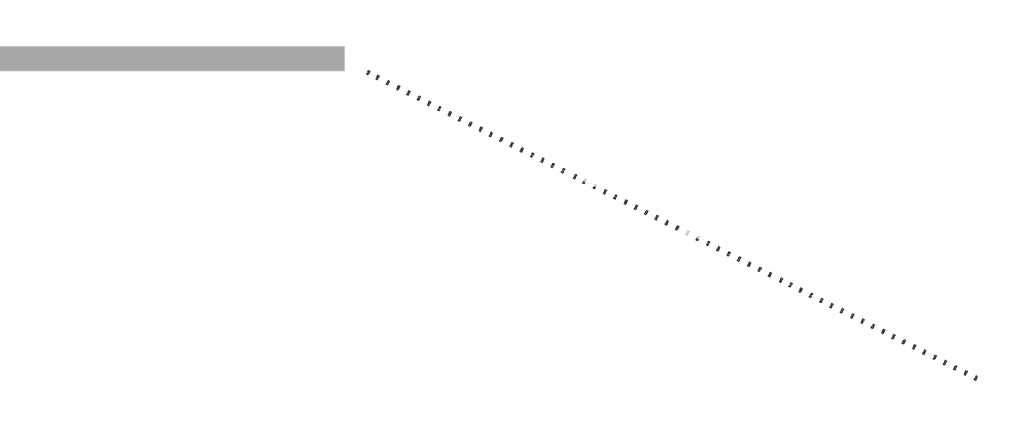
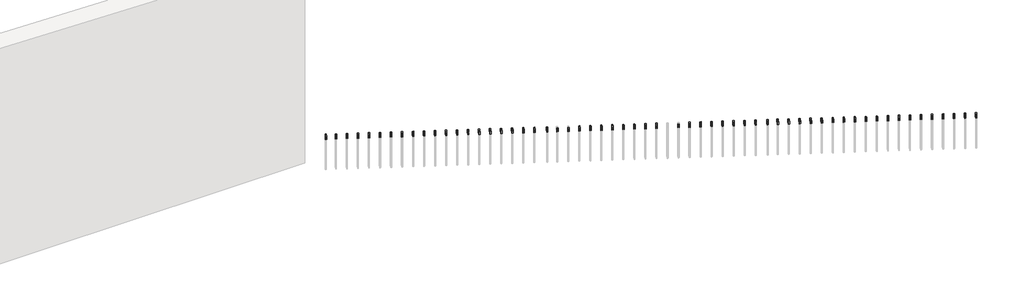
# One storey, part 4 of 7: 133 proxies.
"""IFC4 building model written with IfcOpenShell, lengths in millimetres."""

from ifc_helpers import new_model, si_unit, origin, place, context, project, spatial, transform, mapped, element, save
from components import generic_models_e9040c9c

model = new_model("IFC4")

# Units and contexts
model_context = context("Model", 3, world=origin())
ifc_project = project(units=[si_unit("LENGTHUNIT", "METRE", prefix="MILLI")], contexts=[model_context])

# Site, building, storey
site = spatial("IfcSite", under=ifc_project)
building = spatial("IfcBuilding", under=site)
storey = spatial("IfcBuildingStorey", under=building, Name="Niveau bas piédroits", Elevation=1000.0)

# Proxies
placement = place(None, origin())
generic_models_shape = generic_models_e9040c9c(model_context)
element("IfcBuildingElementProxy", 1, Name="Bouchon de sécurité vertical : Bouchon de sécurité vertical", ObjectType="Bouchon de sécurité vertical : Bouchon de sécurité vertical", at=placement, inside=storey, context=model_context, shape_type="MappedRepresentation", body=[
    mapped(generic_models_shape, transform((9537.0314234, -4304.6217934, 1708.9775513), x_axis=(1.0, 0.0, 0.0), y_axis=(0.0, 1.0, 0.0), z_axis=(0.0, 0.0, 1.0))),
])
element("IfcBuildingElementProxy", 2, Name="Bouchon de sécurité vertical : Bouchon de sécurité vertical", ObjectType="Bouchon de sécurité vertical : Bouchon de sécurité vertical", at=placement, inside=storey, context=model_context, shape_type="MappedRepresentation", body=[
    mapped(generic_models_shape, transform((9297.0314234, -4304.6217934, 1708.9775513), x_axis=(1.0, 0.0, 0.0), y_axis=(0.0, 1.0, 0.0), z_axis=(0.0, 0.0, 1.0))),
])
element("IfcBuildingElementProxy", 3, Name="Bouchon de sécurité vertical : Bouchon de sécurité vertical", ObjectType="Bouchon de sécurité vertical : Bouchon de sécurité vertical", at=placement, inside=storey, context=model_context, shape_type="MappedRepresentation", body=[
    mapped(generic_models_shape, transform((9057.0314234, -4304.6217934, 1708.9775513), x_axis=(1.0, 0.0, 0.0), y_axis=(0.0, 1.0, 0.0), z_axis=(0.0, 0.0, 1.0))),
])
element("IfcBuildingElementProxy", 4, Name="Bouchon de sécurité vertical : Bouchon de sécurité vertical", ObjectType="Bouchon de sécurité vertical : Bouchon de sécurité vertical", at=placement, inside=storey, context=model_context, shape_type="MappedRepresentation", body=[
    mapped(generic_models_shape, transform((9777.0314234, -4304.6217934, 1708.9775513), x_axis=(1.0, 0.0, 0.0), y_axis=(0.0, 1.0, 0.0), z_axis=(0.0, 0.0, 1.0))),
])
element("IfcBuildingElementProxy", 5, Name="Bouchon de sécurité vertical : Bouchon de sécurité vertical", ObjectType="Bouchon de sécurité vertical : Bouchon de sécurité vertical", at=placement, inside=storey, context=model_context, shape_type="MappedRepresentation", body=[
    mapped(generic_models_shape, transform((10017.0314234, -4304.6217934, 1708.9775513), x_axis=(1.0, 0.0, 0.0), y_axis=(0.0, 1.0, 0.0), z_axis=(0.0, 0.0, 1.0))),
])
element("IfcBuildingElementProxy", 6, Name="Bouchon de sécurité vertical : Bouchon de sécurité vertical", ObjectType="Bouchon de sécurité vertical : Bouchon de sécurité vertical", at=placement, inside=storey, context=model_context, shape_type="MappedRepresentation", body=[
    mapped(generic_models_shape, transform((10257.0314234, -4304.6217934, 1708.9775513), x_axis=(1.0, 0.0, 0.0), y_axis=(0.0, 1.0, 0.0), z_axis=(0.0, 0.0, 1.0))),
])
element("IfcBuildingElementProxy", 7, Name="Bouchon de sécurité vertical : Bouchon de sécurité vertical", ObjectType="Bouchon de sécurité vertical : Bouchon de sécurité vertical", at=placement, inside=storey, context=model_context, shape_type="MappedRepresentation", body=[
    mapped(generic_models_shape, transform((10497.0314234, -4304.6217934, 1708.9775513), x_axis=(1.0, 0.0, 0.0), y_axis=(0.0, 1.0, 0.0), z_axis=(0.0, 0.0, 1.0))),
])
element("IfcBuildingElementProxy", 8, Name="Bouchon de sécurité vertical : Bouchon de sécurité vertical", ObjectType="Bouchon de sécurité vertical : Bouchon de sécurité vertical", at=placement, inside=storey, context=model_context, shape_type="MappedRepresentation", body=[
    mapped(generic_models_shape, transform((10737.0314234, -4304.6217934, 1708.9775513), x_axis=(1.0, 0.0, 0.0), y_axis=(0.0, 1.0, 0.0), z_axis=(0.0, 0.0, 1.0))),
])
element("IfcBuildingElementProxy", 9, Name="Bouchon de sécurité vertical : Bouchon de sécurité vertical", ObjectType="Bouchon de sécurité vertical : Bouchon de sécurité vertical", at=placement, inside=storey, context=model_context, shape_type="MappedRepresentation", body=[
    mapped(generic_models_shape, transform((9537.0314234, -4024.6217934, 1708.9775513), x_axis=(1.0, 0.0, 0.0), y_axis=(0.0, 1.0, 0.0), z_axis=(0.0, 0.0, 1.0))),
])
element("IfcBuildingElementProxy", 10, Name="Bouchon de sécurité vertical : Bouchon de sécurité vertical", ObjectType="Bouchon de sécurité vertical : Bouchon de sécurité vertical", at=placement, inside=storey, context=model_context, shape_type="MappedRepresentation", body=[
    mapped(generic_models_shape, transform((9297.0314234, -4024.6217934, 1708.9775513), x_axis=(1.0, 0.0, 0.0), y_axis=(0.0, 1.0, 0.0), z_axis=(0.0, 0.0, 1.0))),
])
element("IfcBuildingElementProxy", 11, Name="Bouchon de sécurité vertical : Bouchon de sécurité vertical", ObjectType="Bouchon de sécurité vertical : Bouchon de sécurité vertical", at=placement, inside=storey, context=model_context, shape_type="MappedRepresentation", body=[
    mapped(generic_models_shape, transform((9057.0314234, -4024.6217934, 1708.9775513), x_axis=(1.0, 0.0, 0.0), y_axis=(0.0, 1.0, 0.0), z_axis=(0.0, 0.0, 1.0))),
])
element("IfcBuildingElementProxy", 12, Name="Bouchon de sécurité vertical : Bouchon de sécurité vertical", ObjectType="Bouchon de sécurité vertical : Bouchon de sécurité vertical", at=placement, inside=storey, context=model_context, shape_type="MappedRepresentation", body=[
    mapped(generic_models_shape, transform((8337.0314234, -4024.6217934, 1708.9775513), x_axis=(1.0, 0.0, 0.0), y_axis=(0.0, 1.0, 0.0), z_axis=(0.0, 0.0, 1.0))),
])
element("IfcBuildingElementProxy", 13, Name="Bouchon de sécurité vertical : Bouchon de sécurité vertical", ObjectType="Bouchon de sécurité vertical : Bouchon de sécurité vertical", at=placement, inside=storey, context=model_context, shape_type="MappedRepresentation", body=[
    mapped(generic_models_shape, transform((9777.0314234, -4024.6217934, 1708.9775513), x_axis=(1.0, 0.0, 0.0), y_axis=(0.0, 1.0, 0.0), z_axis=(0.0, 0.0, 1.0))),
])
element("IfcBuildingElementProxy", 14, Name="Bouchon de sécurité vertical : Bouchon de sécurité vertical", ObjectType="Bouchon de sécurité vertical : Bouchon de sécurité vertical", at=placement, inside=storey, context=model_context, shape_type="MappedRepresentation", body=[
    mapped(generic_models_shape, transform((10017.0314234, -4024.6217934, 1708.9775513), x_axis=(1.0, 0.0, 0.0), y_axis=(0.0, 1.0, 0.0), z_axis=(0.0, 0.0, 1.0))),
])
element("IfcBuildingElementProxy", 15, Name="Bouchon de sécurité vertical : Bouchon de sécurité vertical", ObjectType="Bouchon de sécurité vertical : Bouchon de sécurité vertical", at=placement, inside=storey, context=model_context, shape_type="MappedRepresentation", body=[
    mapped(generic_models_shape, transform((8096.4932038, -4024.6217934, 1708.9775513), x_axis=(1.0, 0.0, 0.0), y_axis=(0.0, 1.0, 0.0), z_axis=(0.0, 0.0, 1.0))),
])
element("IfcBuildingElementProxy", 16, Name="Bouchon de sécurité vertical : Bouchon de sécurité vertical", ObjectType="Bouchon de sécurité vertical : Bouchon de sécurité vertical", at=placement, inside=storey, context=model_context, shape_type="MappedRepresentation", body=[
    mapped(generic_models_shape, transform((10257.0314234, -4024.6217934, 1708.9775513), x_axis=(1.0, 0.0, 0.0), y_axis=(0.0, 1.0, 0.0), z_axis=(0.0, 0.0, 1.0))),
])
element("IfcBuildingElementProxy", 17, Name="Bouchon de sécurité vertical : Bouchon de sécurité vertical", ObjectType="Bouchon de sécurité vertical : Bouchon de sécurité vertical", at=placement, inside=storey, context=model_context, shape_type="MappedRepresentation", body=[
    mapped(generic_models_shape, transform((10497.0314234, -4024.6217934, 1708.9775513), x_axis=(1.0, 0.0, 0.0), y_axis=(0.0, 1.0, 0.0), z_axis=(0.0, 0.0, 1.0))),
])
element("IfcBuildingElementProxy", 18, Name="Bouchon de sécurité vertical : Bouchon de sécurité vertical", ObjectType="Bouchon de sécurité vertical : Bouchon de sécurité vertical", at=placement, inside=storey, context=model_context, shape_type="MappedRepresentation", body=[
    mapped(generic_models_shape, transform((10737.0314234, -4024.6217934, 1708.9775513), x_axis=(1.0, 0.0, 0.0), y_axis=(0.0, 1.0, 0.0), z_axis=(0.0, 0.0, 1.0))),
])
element("IfcBuildingElementProxy", 19, Name="Bouchon de sécurité vertical : Bouchon de sécurité vertical", ObjectType="Bouchon de sécurité vertical : Bouchon de sécurité vertical", at=placement, inside=storey, context=model_context, shape_type="MappedRepresentation", body=[
    mapped(generic_models_shape, transform((14092.3807942, -5859.4303775, 1504.6594135), x_axis=(0.8933406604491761, -0.449380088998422, 0.0), y_axis=(0.449380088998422, 0.8933406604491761, 0.0), z_axis=(0.0, 0.0, 1.0))),
])
element("IfcBuildingElementProxy", 20, Name="Bouchon de sécurité vertical : Bouchon de sécurité vertical", ObjectType="Bouchon de sécurité vertical : Bouchon de sécurité vertical", at=placement, inside=storey, context=model_context, shape_type="MappedRepresentation", body=[
    mapped(generic_models_shape, transform((13877.9790357, -5751.5791562, 1504.6594135), x_axis=(0.8933406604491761, -0.449380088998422, 0.0), y_axis=(0.449380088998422, 0.8933406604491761, 0.0), z_axis=(0.0, 0.0, 1.0))),
])
element("IfcBuildingElementProxy", 21, Name="Bouchon de sécurité vertical : Bouchon de sécurité vertical", ObjectType="Bouchon de sécurité vertical : Bouchon de sécurité vertical", at=placement, inside=storey, context=model_context, shape_type="MappedRepresentation", body=[
    mapped(generic_models_shape, transform((13663.5772772, -5643.7279348, 1504.6594135), x_axis=(0.8933406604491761, -0.449380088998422, 0.0), y_axis=(0.449380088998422, 0.8933406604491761, 0.0), z_axis=(0.0, 0.0, 1.0))),
])
element("IfcBuildingElementProxy", 22, Name="Bouchon de sécurité vertical : Bouchon de sécurité vertical", ObjectType="Bouchon de sécurité vertical : Bouchon de sécurité vertical", at=placement, inside=storey, context=model_context, shape_type="MappedRepresentation", body=[
    mapped(generic_models_shape, transform((13449.1755187, -5535.8767135, 1504.6594135), x_axis=(0.8933406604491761, -0.449380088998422, 0.0), y_axis=(0.449380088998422, 0.8933406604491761, 0.0), z_axis=(0.0, 0.0, 1.0))),
])
element("IfcBuildingElementProxy", 23, Name="Bouchon de sécurité vertical : Bouchon de sécurité vertical", ObjectType="Bouchon de sécurité vertical : Bouchon de sécurité vertical", at=placement, inside=storey, context=model_context, shape_type="MappedRepresentation", body=[
    mapped(generic_models_shape, transform((13234.7737602, -5428.0254921, 1504.6594135), x_axis=(0.8933406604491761, -0.449380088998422, 0.0), y_axis=(0.449380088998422, 0.8933406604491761, 0.0), z_axis=(0.0, 0.0, 1.0))),
])
element("IfcBuildingElementProxy", 24, Name="Bouchon de sécurité vertical : Bouchon de sécurité vertical", ObjectType="Bouchon de sécurité vertical : Bouchon de sécurité vertical", at=placement, inside=storey, context=model_context, shape_type="MappedRepresentation", body=[
    mapped(generic_models_shape, transform((13020.3720017, -5320.1742707, 1504.6594135), x_axis=(0.8933406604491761, -0.449380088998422, 0.0), y_axis=(0.449380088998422, 0.8933406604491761, 0.0), z_axis=(0.0, 0.0, 1.0))),
])
element("IfcBuildingElementProxy", 25, Name="Bouchon de sécurité vertical : Bouchon de sécurité vertical", ObjectType="Bouchon de sécurité vertical : Bouchon de sécurité vertical", at=placement, inside=storey, context=model_context, shape_type="MappedRepresentation", body=[
    mapped(generic_models_shape, transform((12805.9702432, -5212.3230494, 1504.6594135), x_axis=(0.8933406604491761, -0.449380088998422, 0.0), y_axis=(0.449380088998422, 0.8933406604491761, 0.0), z_axis=(0.0, 0.0, 1.0))),
])
element("IfcBuildingElementProxy", 26, Name="Bouchon de sécurité vertical : Bouchon de sécurité vertical", ObjectType="Bouchon de sécurité vertical : Bouchon de sécurité vertical", at=placement, inside=storey, context=model_context, shape_type="MappedRepresentation", body=[
    mapped(generic_models_shape, transform((12591.5684847, -5104.471828, 1504.6594135), x_axis=(0.8933406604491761, -0.449380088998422, 0.0), y_axis=(0.449380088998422, 0.8933406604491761, 0.0), z_axis=(0.0, 0.0, 1.0))),
])
element("IfcBuildingElementProxy", 27, Name="Bouchon de sécurité vertical : Bouchon de sécurité vertical", ObjectType="Bouchon de sécurité vertical : Bouchon de sécurité vertical", at=placement, inside=storey, context=model_context, shape_type="MappedRepresentation", body=[
    mapped(generic_models_shape, transform((12377.1667262, -4996.6206067, 1504.6594135), x_axis=(0.8933406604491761, -0.449380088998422, 0.0), y_axis=(0.449380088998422, 0.8933406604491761, 0.0), z_axis=(0.0, 0.0, 1.0))),
])
element("IfcBuildingElementProxy", 28, Name="Bouchon de sécurité vertical : Bouchon de sécurité vertical", ObjectType="Bouchon de sécurité vertical : Bouchon de sécurité vertical", at=placement, inside=storey, context=model_context, shape_type="MappedRepresentation", body=[
    mapped(generic_models_shape, transform((12162.7649677, -4888.7693853, 1504.6594135), x_axis=(0.8933406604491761, -0.449380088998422, 0.0), y_axis=(0.449380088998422, 0.8933406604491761, 0.0), z_axis=(0.0, 0.0, 1.0))),
])
element("IfcBuildingElementProxy", 29, Name="Bouchon de sécurité vertical : Bouchon de sécurité vertical", ObjectType="Bouchon de sécurité vertical : Bouchon de sécurité vertical", at=placement, inside=storey, context=model_context, shape_type="MappedRepresentation", body=[
    mapped(generic_models_shape, transform((11948.3632092, -4780.9181639, 1504.6594135), x_axis=(0.8933406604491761, -0.449380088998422, 0.0), y_axis=(0.449380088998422, 0.8933406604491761, 0.0), z_axis=(0.0, 0.0, 1.0))),
])
element("IfcBuildingElementProxy", 30, Name="Bouchon de sécurité vertical : Bouchon de sécurité vertical", ObjectType="Bouchon de sécurité vertical : Bouchon de sécurité vertical", at=placement, inside=storey, context=model_context, shape_type="MappedRepresentation", body=[
    mapped(generic_models_shape, transform((11733.9614507, -4673.0669426, 1504.6594135), x_axis=(0.8933406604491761, -0.449380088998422, 0.0), y_axis=(0.449380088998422, 0.8933406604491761, 0.0), z_axis=(0.0, 0.0, 1.0))),
])
element("IfcBuildingElementProxy", 31, Name="Bouchon de sécurité vertical : Bouchon de sécurité vertical", ObjectType="Bouchon de sécurité vertical : Bouchon de sécurité vertical", at=placement, inside=storey, context=model_context, shape_type="MappedRepresentation", body=[
    mapped(generic_models_shape, transform((11537.4265054, -4574.203323, 1504.6594135), x_axis=(0.8933406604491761, -0.449380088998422, 0.0), y_axis=(0.449380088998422, 0.8933406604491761, 0.0), z_axis=(0.0, 0.0, 1.0))),
])
element("IfcBuildingElementProxy", 32, Name="Bouchon de sécurité vertical : Bouchon de sécurité vertical", ObjectType="Bouchon de sécurité vertical : Bouchon de sécurité vertical", at=placement, inside=storey, context=model_context, shape_type="MappedRepresentation", body=[
    mapped(generic_models_shape, transform((14306.7825528, -5967.2815989, 1504.6594135), x_axis=(0.8933406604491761, -0.449380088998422, 0.0), y_axis=(0.449380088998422, 0.8933406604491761, 0.0), z_axis=(0.0, 0.0, 1.0))),
])
element("IfcBuildingElementProxy", 33, Name="Bouchon de sécurité vertical : Bouchon de sécurité vertical", ObjectType="Bouchon de sécurité vertical : Bouchon de sécurité vertical", at=placement, inside=storey, context=model_context, shape_type="MappedRepresentation", body=[
    mapped(generic_models_shape, transform((14521.1843113, -6075.1328203, 1504.6594135), x_axis=(0.8933406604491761, -0.449380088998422, 0.0), y_axis=(0.449380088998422, 0.8933406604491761, 0.0), z_axis=(0.0, 0.0, 1.0))),
])
element("IfcBuildingElementProxy", 34, Name="Bouchon de sécurité vertical : Bouchon de sécurité vertical", ObjectType="Bouchon de sécurité vertical : Bouchon de sécurité vertical", at=placement, inside=storey, context=model_context, shape_type="MappedRepresentation", body=[
    mapped(generic_models_shape, transform((15843.405249, -6740.2539649, 1504.6594135), x_axis=(0.8933406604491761, -0.449380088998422, 0.0), y_axis=(0.449380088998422, 0.8933406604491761, 0.0), z_axis=(0.0, 0.0, 1.0))),
])
element("IfcBuildingElementProxy", 35, Name="Bouchon de sécurité vertical : Bouchon de sécurité vertical", ObjectType="Bouchon de sécurité vertical : Bouchon de sécurité vertical", at=placement, inside=storey, context=model_context, shape_type="MappedRepresentation", body=[
    mapped(generic_models_shape, transform((15593.1931038, -6614.388927, 1504.6594135), x_axis=(0.8933406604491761, -0.449380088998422, 0.0), y_axis=(0.449380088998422, 0.8933406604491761, 0.0), z_axis=(0.0, 0.0, 1.0))),
])
element("IfcBuildingElementProxy", 36, Name="Bouchon de sécurité vertical : Bouchon de sécurité vertical", ObjectType="Bouchon de sécurité vertical : Bouchon de sécurité vertical", at=placement, inside=storey, context=model_context, shape_type="MappedRepresentation", body=[
    mapped(generic_models_shape, transform((15378.7913453, -6506.5377057, 1504.6594135), x_axis=(0.8933406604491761, -0.449380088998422, 0.0), y_axis=(0.449380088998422, 0.8933406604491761, 0.0), z_axis=(0.0, 0.0, 1.0))),
])
element("IfcBuildingElementProxy", 37, Name="Bouchon de sécurité vertical : Bouchon de sécurité vertical", ObjectType="Bouchon de sécurité vertical : Bouchon de sécurité vertical", at=placement, inside=storey, context=model_context, shape_type="MappedRepresentation", body=[
    mapped(generic_models_shape, transform((15164.3895868, -6398.6864843, 1504.6594135), x_axis=(0.8933406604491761, -0.449380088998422, 0.0), y_axis=(0.449380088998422, 0.8933406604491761, 0.0), z_axis=(0.0, 0.0, 1.0))),
])
element("IfcBuildingElementProxy", 38, Name="Bouchon de sécurité vertical : Bouchon de sécurité vertical", ObjectType="Bouchon de sécurité vertical : Bouchon de sécurité vertical", at=placement, inside=storey, context=model_context, shape_type="MappedRepresentation", body=[
    mapped(generic_models_shape, transform((14949.9878283, -6290.835263, 1504.6594135), x_axis=(0.8933406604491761, -0.449380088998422, 0.0), y_axis=(0.449380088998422, 0.8933406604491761, 0.0), z_axis=(0.0, 0.0, 1.0))),
])
element("IfcBuildingElementProxy", 39, Name="Bouchon de sécurité vertical : Bouchon de sécurité vertical", ObjectType="Bouchon de sécurité vertical : Bouchon de sécurité vertical", at=placement, inside=storey, context=model_context, shape_type="MappedRepresentation", body=[
    mapped(generic_models_shape, transform((14735.5860698, -6182.9840416, 1504.6594135), x_axis=(0.8933406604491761, -0.449380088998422, 0.0), y_axis=(0.449380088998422, 0.8933406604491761, 0.0), z_axis=(0.0, 0.0, 1.0))),
])
element("IfcBuildingElementProxy", 40, Name="Bouchon de sécurité vertical : Bouchon de sécurité vertical", ObjectType="Bouchon de sécurité vertical : Bouchon de sécurité vertical", at=placement, inside=storey, context=model_context, shape_type="MappedRepresentation", body=[
    mapped(generic_models_shape, transform((16039.863434, -6839.0789715, 1504.6594135), x_axis=(0.8933406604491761, -0.449380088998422, 0.0), y_axis=(0.449380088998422, 0.8933406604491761, 0.0), z_axis=(0.0, 0.0, 1.0))),
])
element("IfcBuildingElementProxy", 41, Name="Bouchon de sécurité vertical : Bouchon de sécurité vertical", ObjectType="Bouchon de sécurité vertical : Bouchon de sécurité vertical", at=placement, inside=storey, context=model_context, shape_type="MappedRepresentation", body=[
    mapped(generic_models_shape, transform((16254.2651925, -6946.9301929, 1504.6594135), x_axis=(0.8933406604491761, -0.449380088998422, 0.0), y_axis=(0.449380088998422, 0.8933406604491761, 0.0), z_axis=(0.0, 0.0, 1.0))),
])
element("IfcBuildingElementProxy", 42, Name="Bouchon de sécurité vertical : Bouchon de sécurité vertical", ObjectType="Bouchon de sécurité vertical : Bouchon de sécurité vertical", at=placement, inside=storey, context=model_context, shape_type="MappedRepresentation", body=[
    mapped(generic_models_shape, transform((18827.0862946, -8241.1448492, 1504.6594135), x_axis=(0.8933406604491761, -0.449380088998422, 0.0), y_axis=(0.449380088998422, 0.8933406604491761, 0.0), z_axis=(0.0, 0.0, 1.0))),
])
element("IfcBuildingElementProxy", 43, Name="Bouchon de sécurité vertical : Bouchon de sécurité vertical", ObjectType="Bouchon de sécurité vertical : Bouchon de sécurité vertical", at=placement, inside=storey, context=model_context, shape_type="MappedRepresentation", body=[
    mapped(generic_models_shape, transform((18612.6845361, -8133.2936279, 1504.6594135), x_axis=(0.8933406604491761, -0.449380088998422, 0.0), y_axis=(0.449380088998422, 0.8933406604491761, 0.0), z_axis=(0.0, 0.0, 1.0))),
])
element("IfcBuildingElementProxy", 44, Name="Bouchon de sécurité vertical : Bouchon de sécurité vertical", ObjectType="Bouchon de sécurité vertical : Bouchon de sécurité vertical", at=placement, inside=storey, context=model_context, shape_type="MappedRepresentation", body=[
    mapped(generic_models_shape, transform((18398.2827776, -8025.4424065, 1504.6594135), x_axis=(0.8933406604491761, -0.449380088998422, 0.0), y_axis=(0.449380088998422, 0.8933406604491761, 0.0), z_axis=(0.0, 0.0, 1.0))),
])
element("IfcBuildingElementProxy", 45, Name="Bouchon de sécurité vertical : Bouchon de sécurité vertical", ObjectType="Bouchon de sécurité vertical : Bouchon de sécurité vertical", at=placement, inside=storey, context=model_context, shape_type="MappedRepresentation", body=[
    mapped(generic_models_shape, transform((17969.4792606, -7809.7399638, 1504.6594135), x_axis=(0.8933406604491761, -0.449380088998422, 0.0), y_axis=(0.449380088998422, 0.8933406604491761, 0.0), z_axis=(0.0, 0.0, 1.0))),
])
element("IfcBuildingElementProxy", 46, Name="Bouchon de sécurité vertical : Bouchon de sécurité vertical", ObjectType="Bouchon de sécurité vertical : Bouchon de sécurité vertical", at=placement, inside=storey, context=model_context, shape_type="MappedRepresentation", body=[
    mapped(generic_models_shape, transform((17755.0775021, -7701.8887424, 1504.6594135), x_axis=(0.8933406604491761, -0.449380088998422, 0.0), y_axis=(0.449380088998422, 0.8933406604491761, 0.0), z_axis=(0.0, 0.0, 1.0))),
])
element("IfcBuildingElementProxy", 47, Name="Bouchon de sécurité vertical : Bouchon de sécurité vertical", ObjectType="Bouchon de sécurité vertical : Bouchon de sécurité vertical", at=placement, inside=storey, context=model_context, shape_type="MappedRepresentation", body=[
    mapped(generic_models_shape, transform((19041.4880531, -8348.9960706, 1504.6594135), x_axis=(0.8933406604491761, -0.449380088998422, 0.0), y_axis=(0.449380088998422, 0.8933406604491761, 0.0), z_axis=(0.0, 0.0, 1.0))),
])
element("IfcBuildingElementProxy", 48, Name="Bouchon de sécurité vertical : Bouchon de sécurité vertical", ObjectType="Bouchon de sécurité vertical : Bouchon de sécurité vertical", at=placement, inside=storey, context=model_context, shape_type="MappedRepresentation", body=[
    mapped(generic_models_shape, transform((19255.8898116, -8456.8472919, 1504.6594135), x_axis=(0.8933406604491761, -0.449380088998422, 0.0), y_axis=(0.449380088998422, 0.8933406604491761, 0.0), z_axis=(0.0, 0.0, 1.0))),
])
element("IfcBuildingElementProxy", 49, Name="Bouchon de sécurité vertical : Bouchon de sécurité vertical", ObjectType="Bouchon de sécurité vertical : Bouchon de sécurité vertical", at=placement, inside=storey, context=model_context, shape_type="MappedRepresentation", body=[
    mapped(generic_models_shape, transform((16468.666951, -7054.7814143, 1504.6594135), x_axis=(0.8933406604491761, -0.449380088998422, 0.0), y_axis=(0.449380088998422, 0.8933406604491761, 0.0), z_axis=(0.0, 0.0, 1.0))),
])
element("IfcBuildingElementProxy", 50, Name="Bouchon de sécurité vertical : Bouchon de sécurité vertical", ObjectType="Bouchon de sécurité vertical : Bouchon de sécurité vertical", at=placement, inside=storey, context=model_context, shape_type="MappedRepresentation", body=[
    mapped(generic_models_shape, transform((16683.0687095, -7162.6326356, 1504.6594135), x_axis=(0.8933406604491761, -0.449380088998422, 0.0), y_axis=(0.449380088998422, 0.8933406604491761, 0.0), z_axis=(0.0, 0.0, 1.0))),
])
element("IfcBuildingElementProxy", 51, Name="Bouchon de sécurité vertical : Bouchon de sécurité vertical", ObjectType="Bouchon de sécurité vertical : Bouchon de sécurité vertical", at=placement, inside=storey, context=model_context, shape_type="MappedRepresentation", body=[
    mapped(generic_models_shape, transform((16897.4704681, -7270.483857, 1504.6594135), x_axis=(0.8933406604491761, -0.449380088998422, 0.0), y_axis=(0.449380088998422, 0.8933406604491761, 0.0), z_axis=(0.0, 0.0, 1.0))),
])
element("IfcBuildingElementProxy", 52, Name="Bouchon de sécurité vertical : Bouchon de sécurité vertical", ObjectType="Bouchon de sécurité vertical : Bouchon de sécurité vertical", at=placement, inside=storey, context=model_context, shape_type="MappedRepresentation", body=[
    mapped(generic_models_shape, transform((17111.8722266, -7378.3350783, 1504.6594135), x_axis=(0.8933406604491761, -0.449380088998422, 0.0), y_axis=(0.449380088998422, 0.8933406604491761, 0.0), z_axis=(0.0, 0.0, 1.0))),
])
element("IfcBuildingElementProxy", 53, Name="Bouchon de sécurité vertical : Bouchon de sécurité vertical", ObjectType="Bouchon de sécurité vertical : Bouchon de sécurité vertical", at=placement, inside=storey, context=model_context, shape_type="MappedRepresentation", body=[
    mapped(generic_models_shape, transform((17325.7931716, -7485.9444345, 1504.6594135), x_axis=(0.8933406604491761, -0.449380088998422, 0.0), y_axis=(0.449380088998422, 0.8933406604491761, 0.0), z_axis=(0.0, 0.0, 1.0))),
])
element("IfcBuildingElementProxy", 54, Name="Bouchon de sécurité vertical : Bouchon de sécurité vertical", ObjectType="Bouchon de sécurité vertical : Bouchon de sécurité vertical", at=placement, inside=storey, context=model_context, shape_type="MappedRepresentation", body=[
    mapped(generic_models_shape, transform((17540.1949301, -7593.7956559, 1504.6594135), x_axis=(0.8933406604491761, -0.449380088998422, 0.0), y_axis=(0.449380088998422, 0.8933406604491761, 0.0), z_axis=(0.0, 0.0, 1.0))),
])
element("IfcBuildingElementProxy", 55, Name="Bouchon de sécurité vertical : Bouchon de sécurité vertical", ObjectType="Bouchon de sécurité vertical : Bouchon de sécurité vertical", at=placement, inside=storey, context=model_context, shape_type="MappedRepresentation", body=[
    mapped(generic_models_shape, transform((19470.2915701, -8564.6985133, 1504.6594135), x_axis=(0.8933406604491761, -0.449380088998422, 0.0), y_axis=(0.449380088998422, 0.8933406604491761, 0.0), z_axis=(0.0, 0.0, 1.0))),
])
element("IfcBuildingElementProxy", 56, Name="Bouchon de sécurité vertical : Bouchon de sécurité vertical", ObjectType="Bouchon de sécurité vertical : Bouchon de sécurité vertical", at=placement, inside=storey, context=model_context, shape_type="MappedRepresentation", body=[
    mapped(generic_models_shape, transform((19684.6933287, -8672.5497347, 1504.6594135), x_axis=(0.8933406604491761, -0.449380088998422, 0.0), y_axis=(0.449380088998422, 0.8933406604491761, 0.0), z_axis=(0.0, 0.0, 1.0))),
])
element("IfcBuildingElementProxy", 57, Name="Bouchon de sécurité vertical : Bouchon de sécurité vertical", ObjectType="Bouchon de sécurité vertical : Bouchon de sécurité vertical", at=placement, inside=storey, context=model_context, shape_type="MappedRepresentation", body=[
    mapped(generic_models_shape, transform((19899.0950872, -8780.400956, 1504.6594135), x_axis=(0.8933406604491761, -0.449380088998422, 0.0), y_axis=(0.449380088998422, 0.8933406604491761, 0.0), z_axis=(0.0, 0.0, 1.0))),
])
element("IfcBuildingElementProxy", 58, Name="Bouchon de sécurité vertical : Bouchon de sécurité vertical", ObjectType="Bouchon de sécurité vertical : Bouchon de sécurité vertical", at=placement, inside=storey, context=model_context, shape_type="MappedRepresentation", body=[
    mapped(generic_models_shape, transform((14117.0966991, -5810.2966412, 1504.6594135), x_axis=(0.8933406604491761, -0.449380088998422, 0.0), y_axis=(0.449380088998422, 0.8933406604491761, 0.0), z_axis=(0.0, 0.0, 1.0))),
])
element("IfcBuildingElementProxy", 59, Name="Bouchon de sécurité vertical : Bouchon de sécurité vertical", ObjectType="Bouchon de sécurité vertical : Bouchon de sécurité vertical", at=placement, inside=storey, context=model_context, shape_type="MappedRepresentation", body=[
    mapped(generic_models_shape, transform((13902.6949406, -5702.4454198, 1504.6594135), x_axis=(0.8933406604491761, -0.449380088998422, 0.0), y_axis=(0.449380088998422, 0.8933406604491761, 0.0), z_axis=(0.0, 0.0, 1.0))),
])
element("IfcBuildingElementProxy", 60, Name="Bouchon de sécurité vertical : Bouchon de sécurité vertical", ObjectType="Bouchon de sécurité vertical : Bouchon de sécurité vertical", at=placement, inside=storey, context=model_context, shape_type="MappedRepresentation", body=[
    mapped(generic_models_shape, transform((13688.2931821, -5594.5941985, 1504.6594135), x_axis=(0.8933406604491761, -0.449380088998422, 0.0), y_axis=(0.449380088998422, 0.8933406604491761, 0.0), z_axis=(0.0, 0.0, 1.0))),
])
element("IfcBuildingElementProxy", 61, Name="Bouchon de sécurité vertical : Bouchon de sécurité vertical", ObjectType="Bouchon de sécurité vertical : Bouchon de sécurité vertical", at=placement, inside=storey, context=model_context, shape_type="MappedRepresentation", body=[
    mapped(generic_models_shape, transform((13473.8914236, -5486.7429771, 1504.6594135), x_axis=(0.8933406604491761, -0.449380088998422, 0.0), y_axis=(0.449380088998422, 0.8933406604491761, 0.0), z_axis=(0.0, 0.0, 1.0))),
])
element("IfcBuildingElementProxy", 62, Name="Bouchon de sécurité vertical : Bouchon de sécurité vertical", ObjectType="Bouchon de sécurité vertical : Bouchon de sécurité vertical", at=placement, inside=storey, context=model_context, shape_type="MappedRepresentation", body=[
    mapped(generic_models_shape, transform((13259.4896651, -5378.8917558, 1504.6594135), x_axis=(0.8933406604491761, -0.449380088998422, 0.0), y_axis=(0.449380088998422, 0.8933406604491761, 0.0), z_axis=(0.0, 0.0, 1.0))),
])
element("IfcBuildingElementProxy", 63, Name="Bouchon de sécurité vertical : Bouchon de sécurité vertical", ObjectType="Bouchon de sécurité vertical : Bouchon de sécurité vertical", at=placement, inside=storey, context=model_context, shape_type="MappedRepresentation", body=[
    mapped(generic_models_shape, transform((13045.0879066, -5271.0405344, 1504.6594135), x_axis=(0.8933406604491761, -0.449380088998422, 0.0), y_axis=(0.449380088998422, 0.8933406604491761, 0.0), z_axis=(0.0, 0.0, 1.0))),
])
element("IfcBuildingElementProxy", 64, Name="Bouchon de sécurité vertical : Bouchon de sécurité vertical", ObjectType="Bouchon de sécurité vertical : Bouchon de sécurité vertical", at=placement, inside=storey, context=model_context, shape_type="MappedRepresentation", body=[
    mapped(generic_models_shape, transform((12830.6861481, -5163.189313, 1504.6594135), x_axis=(0.8933406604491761, -0.449380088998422, 0.0), y_axis=(0.449380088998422, 0.8933406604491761, 0.0), z_axis=(0.0, 0.0, 1.0))),
])
element("IfcBuildingElementProxy", 65, Name="Bouchon de sécurité vertical : Bouchon de sécurité vertical", ObjectType="Bouchon de sécurité vertical : Bouchon de sécurité vertical", at=placement, inside=storey, context=model_context, shape_type="MappedRepresentation", body=[
    mapped(generic_models_shape, transform((12616.2843896, -5055.3380917, 1504.6594135), x_axis=(0.8933406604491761, -0.449380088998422, 0.0), y_axis=(0.449380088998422, 0.8933406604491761, 0.0), z_axis=(0.0, 0.0, 1.0))),
])
element("IfcBuildingElementProxy", 66, Name="Bouchon de sécurité vertical : Bouchon de sécurité vertical", ObjectType="Bouchon de sécurité vertical : Bouchon de sécurité vertical", at=placement, inside=storey, context=model_context, shape_type="MappedRepresentation", body=[
    mapped(generic_models_shape, transform((12401.8826311, -4947.4868703, 1504.6594135), x_axis=(0.8933406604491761, -0.449380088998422, 0.0), y_axis=(0.449380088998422, 0.8933406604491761, 0.0), z_axis=(0.0, 0.0, 1.0))),
])
element("IfcBuildingElementProxy", 67, Name="Bouchon de sécurité vertical : Bouchon de sécurité vertical", ObjectType="Bouchon de sécurité vertical : Bouchon de sécurité vertical", at=placement, inside=storey, context=model_context, shape_type="MappedRepresentation", body=[
    mapped(generic_models_shape, transform((12187.4808726, -4839.635649, 1504.6594135), x_axis=(0.8933406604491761, -0.449380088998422, 0.0), y_axis=(0.449380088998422, 0.8933406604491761, 0.0), z_axis=(0.0, 0.0, 1.0))),
])
element("IfcBuildingElementProxy", 68, Name="Bouchon de sécurité vertical : Bouchon de sécurité vertical", ObjectType="Bouchon de sécurité vertical : Bouchon de sécurité vertical", at=placement, inside=storey, context=model_context, shape_type="MappedRepresentation", body=[
    mapped(generic_models_shape, transform((11973.0791141, -4731.7844276, 1504.6594135), x_axis=(0.8933406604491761, -0.449380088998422, 0.0), y_axis=(0.449380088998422, 0.8933406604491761, 0.0), z_axis=(0.0, 0.0, 1.0))),
])
element("IfcBuildingElementProxy", 69, Name="Bouchon de sécurité vertical : Bouchon de sécurité vertical", ObjectType="Bouchon de sécurité vertical : Bouchon de sécurité vertical", at=placement, inside=storey, context=model_context, shape_type="MappedRepresentation", body=[
    mapped(generic_models_shape, transform((11758.6773556, -4623.9332063, 1504.6594135), x_axis=(0.8933406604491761, -0.449380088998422, 0.0), y_axis=(0.449380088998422, 0.8933406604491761, 0.0), z_axis=(0.0, 0.0, 1.0))),
])
element("IfcBuildingElementProxy", 70, Name="Bouchon de sécurité vertical : Bouchon de sécurité vertical", ObjectType="Bouchon de sécurité vertical : Bouchon de sécurité vertical", at=placement, inside=storey, context=model_context, shape_type="MappedRepresentation", body=[
    mapped(generic_models_shape, transform((11562.1424103, -4525.0695867, 1504.6594135), x_axis=(0.8933406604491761, -0.449380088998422, 0.0), y_axis=(0.449380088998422, 0.8933406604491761, 0.0), z_axis=(0.0, 0.0, 1.0))),
])
element("IfcBuildingElementProxy", 71, Name="Bouchon de sécurité vertical : Bouchon de sécurité vertical", ObjectType="Bouchon de sécurité vertical : Bouchon de sécurité vertical", at=placement, inside=storey, context=model_context, shape_type="MappedRepresentation", body=[
    mapped(generic_models_shape, transform((14331.4984576, -5918.1478626, 1504.6594135), x_axis=(0.8933406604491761, -0.449380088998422, 0.0), y_axis=(0.449380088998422, 0.8933406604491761, 0.0), z_axis=(0.0, 0.0, 1.0))),
])
element("IfcBuildingElementProxy", 72, Name="Bouchon de sécurité vertical : Bouchon de sécurité vertical", ObjectType="Bouchon de sécurité vertical : Bouchon de sécurité vertical", at=placement, inside=storey, context=model_context, shape_type="MappedRepresentation", body=[
    mapped(generic_models_shape, transform((14545.9002162, -6025.9990839, 1504.6594135), x_axis=(0.8933406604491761, -0.449380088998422, 0.0), y_axis=(0.449380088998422, 0.8933406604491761, 0.0), z_axis=(0.0, 0.0, 1.0))),
])
element("IfcBuildingElementProxy", 73, Name="Bouchon de sécurité vertical : Bouchon de sécurité vertical", ObjectType="Bouchon de sécurité vertical : Bouchon de sécurité vertical", at=placement, inside=storey, context=model_context, shape_type="MappedRepresentation", body=[
    mapped(generic_models_shape, transform((15868.1211539, -6691.1202286, 1504.6594135), x_axis=(0.8933406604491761, -0.449380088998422, 0.0), y_axis=(0.449380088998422, 0.8933406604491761, 0.0), z_axis=(0.0, 0.0, 1.0))),
])
element("IfcBuildingElementProxy", 74, Name="Bouchon de sécurité vertical : Bouchon de sécurité vertical", ObjectType="Bouchon de sécurité vertical : Bouchon de sécurité vertical", at=placement, inside=storey, context=model_context, shape_type="MappedRepresentation", body=[
    mapped(generic_models_shape, transform((15617.9090087, -6565.2551907, 1504.6594135), x_axis=(0.8933406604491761, -0.449380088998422, 0.0), y_axis=(0.449380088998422, 0.8933406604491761, 0.0), z_axis=(0.0, 0.0, 1.0))),
])
element("IfcBuildingElementProxy", 75, Name="Bouchon de sécurité vertical : Bouchon de sécurité vertical", ObjectType="Bouchon de sécurité vertical : Bouchon de sécurité vertical", at=placement, inside=storey, context=model_context, shape_type="MappedRepresentation", body=[
    mapped(generic_models_shape, transform((15403.5072502, -6457.4039694, 1504.6594135), x_axis=(0.8933406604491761, -0.449380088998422, 0.0), y_axis=(0.449380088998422, 0.8933406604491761, 0.0), z_axis=(0.0, 0.0, 1.0))),
])
element("IfcBuildingElementProxy", 76, Name="Bouchon de sécurité vertical : Bouchon de sécurité vertical", ObjectType="Bouchon de sécurité vertical : Bouchon de sécurité vertical", at=placement, inside=storey, context=model_context, shape_type="MappedRepresentation", body=[
    mapped(generic_models_shape, transform((15189.1054917, -6349.552748, 1504.6594135), x_axis=(0.8933406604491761, -0.449380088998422, 0.0), y_axis=(0.449380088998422, 0.8933406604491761, 0.0), z_axis=(0.0, 0.0, 1.0))),
])
element("IfcBuildingElementProxy", 77, Name="Bouchon de sécurité vertical : Bouchon de sécurité vertical", ObjectType="Bouchon de sécurité vertical : Bouchon de sécurité vertical", at=placement, inside=storey, context=model_context, shape_type="MappedRepresentation", body=[
    mapped(generic_models_shape, transform((14974.7037332, -6241.7015266, 1504.6594135), x_axis=(0.8933406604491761, -0.449380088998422, 0.0), y_axis=(0.449380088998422, 0.8933406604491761, 0.0), z_axis=(0.0, 0.0, 1.0))),
])
element("IfcBuildingElementProxy", 78, Name="Bouchon de sécurité vertical : Bouchon de sécurité vertical", ObjectType="Bouchon de sécurité vertical : Bouchon de sécurité vertical", at=placement, inside=storey, context=model_context, shape_type="MappedRepresentation", body=[
    mapped(generic_models_shape, transform((14760.3019747, -6133.8503053, 1504.6594135), x_axis=(0.8933406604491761, -0.449380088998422, 0.0), y_axis=(0.449380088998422, 0.8933406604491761, 0.0), z_axis=(0.0, 0.0, 1.0))),
])
element("IfcBuildingElementProxy", 79, Name="Bouchon de sécurité vertical : Bouchon de sécurité vertical", ObjectType="Bouchon de sécurité vertical : Bouchon de sécurité vertical", at=placement, inside=storey, context=model_context, shape_type="MappedRepresentation", body=[
    mapped(generic_models_shape, transform((18851.8021995, -8192.0111129, 1504.6594135), x_axis=(0.8933406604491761, -0.449380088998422, 0.0), y_axis=(0.449380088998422, 0.8933406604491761, 0.0), z_axis=(0.0, 0.0, 1.0))),
])
element("IfcBuildingElementProxy", 80, Name="Bouchon de sécurité vertical : Bouchon de sécurité vertical", ObjectType="Bouchon de sécurité vertical : Bouchon de sécurité vertical", at=placement, inside=storey, context=model_context, shape_type="MappedRepresentation", body=[
    mapped(generic_models_shape, transform((18637.400441, -8084.1598915, 1504.6594135), x_axis=(0.8933406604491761, -0.449380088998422, 0.0), y_axis=(0.449380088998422, 0.8933406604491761, 0.0), z_axis=(0.0, 0.0, 1.0))),
])
element("IfcBuildingElementProxy", 81, Name="Bouchon de sécurité vertical : Bouchon de sécurité vertical", ObjectType="Bouchon de sécurité vertical : Bouchon de sécurité vertical", at=placement, inside=storey, context=model_context, shape_type="MappedRepresentation", body=[
    mapped(generic_models_shape, transform((17994.1951655, -7760.6062275, 1504.6594135), x_axis=(0.8933406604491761, -0.449380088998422, 0.0), y_axis=(0.449380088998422, 0.8933406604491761, 0.0), z_axis=(0.0, 0.0, 1.0))),
])
element("IfcBuildingElementProxy", 82, Name="Bouchon de sécurité vertical : Bouchon de sécurité vertical", ObjectType="Bouchon de sécurité vertical : Bouchon de sécurité vertical", at=placement, inside=storey, context=model_context, shape_type="MappedRepresentation", body=[
    mapped(generic_models_shape, transform((17779.793407, -7652.7550061, 1504.6594135), x_axis=(0.8933406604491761, -0.449380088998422, 0.0), y_axis=(0.449380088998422, 0.8933406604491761, 0.0), z_axis=(0.0, 0.0, 1.0))),
])
element("IfcBuildingElementProxy", 83, Name="Bouchon de sécurité vertical : Bouchon de sécurité vertical", ObjectType="Bouchon de sécurité vertical : Bouchon de sécurité vertical", at=placement, inside=storey, context=model_context, shape_type="MappedRepresentation", body=[
    mapped(generic_models_shape, transform((19066.203958, -8299.8623343, 1504.6594135), x_axis=(0.8933406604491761, -0.449380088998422, 0.0), y_axis=(0.449380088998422, 0.8933406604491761, 0.0), z_axis=(0.0, 0.0, 1.0))),
])
element("IfcBuildingElementProxy", 84, Name="Bouchon de sécurité vertical : Bouchon de sécurité vertical", ObjectType="Bouchon de sécurité vertical : Bouchon de sécurité vertical", at=placement, inside=storey, context=model_context, shape_type="MappedRepresentation", body=[
    mapped(generic_models_shape, transform((19280.6057165, -8407.7135556, 1504.6594135), x_axis=(0.8933406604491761, -0.449380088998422, 0.0), y_axis=(0.449380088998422, 0.8933406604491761, 0.0), z_axis=(0.0, 0.0, 1.0))),
])
element("IfcBuildingElementProxy", 85, Name="Bouchon de sécurité vertical : Bouchon de sécurité vertical", ObjectType="Bouchon de sécurité vertical : Bouchon de sécurité vertical", at=placement, inside=storey, context=model_context, shape_type="MappedRepresentation", body=[
    mapped(generic_models_shape, transform((16493.3828559, -7005.6476779, 1504.6594135), x_axis=(0.8933406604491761, -0.449380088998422, 0.0), y_axis=(0.449380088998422, 0.8933406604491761, 0.0), z_axis=(0.0, 0.0, 1.0))),
])
element("IfcBuildingElementProxy", 86, Name="Bouchon de sécurité vertical : Bouchon de sécurité vertical", ObjectType="Bouchon de sécurité vertical : Bouchon de sécurité vertical", at=placement, inside=storey, context=model_context, shape_type="MappedRepresentation", body=[
    mapped(generic_models_shape, transform((16707.7846144, -7113.4988993, 1504.6594135), x_axis=(0.8933406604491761, -0.449380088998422, 0.0), y_axis=(0.449380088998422, 0.8933406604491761, 0.0), z_axis=(0.0, 0.0, 1.0))),
])
element("IfcBuildingElementProxy", 87, Name="Bouchon de sécurité vertical : Bouchon de sécurité vertical", ObjectType="Bouchon de sécurité vertical : Bouchon de sécurité vertical", at=placement, inside=storey, context=model_context, shape_type="MappedRepresentation", body=[
    mapped(generic_models_shape, transform((16922.1863729, -7221.3501207, 1504.6594135), x_axis=(0.8933406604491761, -0.449380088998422, 0.0), y_axis=(0.449380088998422, 0.8933406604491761, 0.0), z_axis=(0.0, 0.0, 1.0))),
])
element("IfcBuildingElementProxy", 88, Name="Bouchon de sécurité vertical : Bouchon de sécurité vertical", ObjectType="Bouchon de sécurité vertical : Bouchon de sécurité vertical", at=placement, inside=storey, context=model_context, shape_type="MappedRepresentation", body=[
    mapped(generic_models_shape, transform((17136.5881315, -7329.201342, 1504.6594135), x_axis=(0.8933406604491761, -0.449380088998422, 0.0), y_axis=(0.449380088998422, 0.8933406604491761, 0.0), z_axis=(0.0, 0.0, 1.0))),
])
element("IfcBuildingElementProxy", 89, Name="Bouchon de sécurité vertical : Bouchon de sécurité vertical", ObjectType="Bouchon de sécurité vertical : Bouchon de sécurité vertical", at=placement, inside=storey, context=model_context, shape_type="MappedRepresentation", body=[
    mapped(generic_models_shape, transform((17350.5090765, -7436.8106982, 1504.6594135), x_axis=(0.8933406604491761, -0.449380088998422, 0.0), y_axis=(0.449380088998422, 0.8933406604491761, 0.0), z_axis=(0.0, 0.0, 1.0))),
])
element("IfcBuildingElementProxy", 90, Name="Bouchon de sécurité vertical : Bouchon de sécurité vertical", ObjectType="Bouchon de sécurité vertical : Bouchon de sécurité vertical", at=placement, inside=storey, context=model_context, shape_type="MappedRepresentation", body=[
    mapped(generic_models_shape, transform((17564.910835, -7544.6619196, 1504.6594135), x_axis=(0.8933406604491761, -0.449380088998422, 0.0), y_axis=(0.449380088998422, 0.8933406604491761, 0.0), z_axis=(0.0, 0.0, 1.0))),
])
element("IfcBuildingElementProxy", 91, Name="Bouchon de sécurité vertical : Bouchon de sécurité vertical", ObjectType="Bouchon de sécurité vertical : Bouchon de sécurité vertical", at=placement, inside=storey, context=model_context, shape_type="MappedRepresentation", body=[
    mapped(generic_models_shape, transform((19495.007475, -8515.564777, 1504.6594135), x_axis=(0.8933406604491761, -0.449380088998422, 0.0), y_axis=(0.449380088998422, 0.8933406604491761, 0.0), z_axis=(0.0, 0.0, 1.0))),
])
element("IfcBuildingElementProxy", 92, Name="Bouchon de sécurité vertical : Bouchon de sécurité vertical", ObjectType="Bouchon de sécurité vertical : Bouchon de sécurité vertical", at=placement, inside=storey, context=model_context, shape_type="MappedRepresentation", body=[
    mapped(generic_models_shape, transform((19709.4092335, -8623.4159983, 1504.6594135), x_axis=(0.8933406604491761, -0.449380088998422, 0.0), y_axis=(0.449380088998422, 0.8933406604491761, 0.0), z_axis=(0.0, 0.0, 1.0))),
])
element("IfcBuildingElementProxy", 93, Name="Bouchon de sécurité vertical : Bouchon de sécurité vertical", ObjectType="Bouchon de sécurité vertical : Bouchon de sécurité vertical", at=placement, inside=storey, context=model_context, shape_type="MappedRepresentation", body=[
    mapped(generic_models_shape, transform((19923.8109921, -8731.2672197, 1504.6594135), x_axis=(0.8933406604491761, -0.449380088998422, 0.0), y_axis=(0.449380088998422, 0.8933406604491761, 0.0), z_axis=(0.0, 0.0, 1.0))),
])
element("IfcBuildingElementProxy", 94, Name="Bouchon de sécurité vertical : Bouchon de sécurité vertical", ObjectType="Bouchon de sécurité vertical : Bouchon de sécurité vertical", at=placement, inside=storey, context=model_context, shape_type="MappedRepresentation", body=[
    mapped(generic_models_shape, transform((23115.1214648, -10398.1692764, 1504.6594135), x_axis=(0.8933406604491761, -0.449380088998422, 0.0), y_axis=(0.449380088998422, 0.8933406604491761, 0.0), z_axis=(0.0, 0.0, 1.0))),
])
element("IfcBuildingElementProxy", 95, Name="Bouchon de sécurité vertical : Bouchon de sécurité vertical", ObjectType="Bouchon de sécurité vertical : Bouchon de sécurité vertical", at=placement, inside=storey, context=model_context, shape_type="MappedRepresentation", body=[
    mapped(generic_models_shape, transform((22900.7197063, -10290.3180551, 1504.6594135), x_axis=(0.8933406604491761, -0.449380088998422, 0.0), y_axis=(0.449380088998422, 0.8933406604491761, 0.0), z_axis=(0.0, 0.0, 1.0))),
])
element("IfcBuildingElementProxy", 96, Name="Bouchon de sécurité vertical : Bouchon de sécurité vertical", ObjectType="Bouchon de sécurité vertical : Bouchon de sécurité vertical", at=placement, inside=storey, context=model_context, shape_type="MappedRepresentation", body=[
    mapped(generic_models_shape, transform((22686.3179478, -10182.4668337, 1504.6594135), x_axis=(0.8933406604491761, -0.449380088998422, 0.0), y_axis=(0.449380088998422, 0.8933406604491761, 0.0), z_axis=(0.0, 0.0, 1.0))),
])
element("IfcBuildingElementProxy", 97, Name="Bouchon de sécurité vertical : Bouchon de sécurité vertical", ObjectType="Bouchon de sécurité vertical : Bouchon de sécurité vertical", at=placement, inside=storey, context=model_context, shape_type="MappedRepresentation", body=[
    mapped(generic_models_shape, transform((22471.9161893, -10074.6156123, 1504.6594135), x_axis=(0.8933406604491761, -0.449380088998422, 0.0), y_axis=(0.449380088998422, 0.8933406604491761, 0.0), z_axis=(0.0, 0.0, 1.0))),
])
element("IfcBuildingElementProxy", 98, Name="Bouchon de sécurité vertical : Bouchon de sécurité vertical", ObjectType="Bouchon de sécurité vertical : Bouchon de sécurité vertical", at=placement, inside=storey, context=model_context, shape_type="MappedRepresentation", body=[
    mapped(generic_models_shape, transform((22257.5144307, -9966.764391, 1504.6594135), x_axis=(0.8933406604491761, -0.449380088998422, 0.0), y_axis=(0.449380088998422, 0.8933406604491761, 0.0), z_axis=(0.0, 0.0, 1.0))),
])
element("IfcBuildingElementProxy", 99, Name="Bouchon de sécurité vertical : Bouchon de sécurité vertical", ObjectType="Bouchon de sécurité vertical : Bouchon de sécurité vertical", at=placement, inside=storey, context=model_context, shape_type="MappedRepresentation", body=[
    mapped(generic_models_shape, transform((22043.1126722, -9858.9131696, 1504.6594135), x_axis=(0.8933406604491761, -0.449380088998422, 0.0), y_axis=(0.449380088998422, 0.8933406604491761, 0.0), z_axis=(0.0, 0.0, 1.0))),
])
element("IfcBuildingElementProxy", 100, Name="Bouchon de sécurité vertical : Bouchon de sécurité vertical", ObjectType="Bouchon de sécurité vertical : Bouchon de sécurité vertical", at=placement, inside=storey, context=model_context, shape_type="MappedRepresentation", body=[
    mapped(generic_models_shape, transform((23329.5232233, -10506.0204978, 1504.6594135), x_axis=(0.8933406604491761, -0.449380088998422, 0.0), y_axis=(0.449380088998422, 0.8933406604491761, 0.0), z_axis=(0.0, 0.0, 1.0))),
])
element("IfcBuildingElementProxy", 101, Name="Bouchon de sécurité vertical : Bouchon de sécurité vertical", ObjectType="Bouchon de sécurité vertical : Bouchon de sécurité vertical", at=placement, inside=storey, context=model_context, shape_type="MappedRepresentation", body=[
    mapped(generic_models_shape, transform((23543.9249818, -10613.8717191, 1504.6594135), x_axis=(0.8933406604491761, -0.449380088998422, 0.0), y_axis=(0.449380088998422, 0.8933406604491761, 0.0), z_axis=(0.0, 0.0, 1.0))),
])
element("IfcBuildingElementProxy", 102, Name="Bouchon de sécurité vertical : Bouchon de sécurité vertical", ObjectType="Bouchon de sécurité vertical : Bouchon de sécurité vertical", at=placement, inside=storey, context=model_context, shape_type="MappedRepresentation", body=[
    mapped(generic_models_shape, transform((21613.8283418, -9642.9688617, 1504.6594135), x_axis=(0.8933406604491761, -0.449380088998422, 0.0), y_axis=(0.449380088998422, 0.8933406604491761, 0.0), z_axis=(0.0, 0.0, 1.0))),
])
element("IfcBuildingElementProxy", 103, Name="Bouchon de sécurité vertical : Bouchon de sécurité vertical", ObjectType="Bouchon de sécurité vertical : Bouchon de sécurité vertical", at=placement, inside=storey, context=model_context, shape_type="MappedRepresentation", body=[
    mapped(generic_models_shape, transform((21828.2301003, -9750.8200831, 1504.6594135), x_axis=(0.8933406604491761, -0.449380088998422, 0.0), y_axis=(0.449380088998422, 0.8933406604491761, 0.0), z_axis=(0.0, 0.0, 1.0))),
])
element("IfcBuildingElementProxy", 104, Name="Bouchon de sécurité vertical : Bouchon de sécurité vertical", ObjectType="Bouchon de sécurité vertical : Bouchon de sécurité vertical", at=placement, inside=storey, context=model_context, shape_type="MappedRepresentation", body=[
    mapped(generic_models_shape, transform((23758.3267403, -10721.7229405, 1504.6594135), x_axis=(0.8933406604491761, -0.449380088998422, 0.0), y_axis=(0.449380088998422, 0.8933406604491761, 0.0), z_axis=(0.0, 0.0, 1.0))),
])
element("IfcBuildingElementProxy", 105, Name="Bouchon de sécurité vertical : Bouchon de sécurité vertical", ObjectType="Bouchon de sécurité vertical : Bouchon de sécurité vertical", at=placement, inside=storey, context=model_context, shape_type="MappedRepresentation", body=[
    mapped(generic_models_shape, transform((23972.7284988, -10829.5741619, 1504.6594135), x_axis=(0.8933406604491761, -0.449380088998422, 0.0), y_axis=(0.449380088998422, 0.8933406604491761, 0.0), z_axis=(0.0, 0.0, 1.0))),
])
element("IfcBuildingElementProxy", 106, Name="Bouchon de sécurité vertical : Bouchon de sécurité vertical", ObjectType="Bouchon de sécurité vertical : Bouchon de sécurité vertical", at=placement, inside=storey, context=model_context, shape_type="MappedRepresentation", body=[
    mapped(generic_models_shape, transform((24187.1302573, -10937.4253832, 1504.6594135), x_axis=(0.8933406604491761, -0.449380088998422, 0.0), y_axis=(0.449380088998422, 0.8933406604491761, 0.0), z_axis=(0.0, 0.0, 1.0))),
])
element("IfcBuildingElementProxy", 107, Name="Bouchon de sécurité vertical : Bouchon de sécurité vertical", ObjectType="Bouchon de sécurité vertical : Bouchon de sécurité vertical", at=placement, inside=storey, context=model_context, shape_type="MappedRepresentation", body=[
    mapped(generic_models_shape, transform((23139.8373697, -10349.0355401, 1504.6594135), x_axis=(0.8933406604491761, -0.449380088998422, 0.0), y_axis=(0.449380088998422, 0.8933406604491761, 0.0), z_axis=(0.0, 0.0, 1.0))),
])
element("IfcBuildingElementProxy", 108, Name="Bouchon de sécurité vertical : Bouchon de sécurité vertical", ObjectType="Bouchon de sécurité vertical : Bouchon de sécurité vertical", at=placement, inside=storey, context=model_context, shape_type="MappedRepresentation", body=[
    mapped(generic_models_shape, transform((22925.4356112, -10241.1843187, 1504.6594135), x_axis=(0.8933406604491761, -0.449380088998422, 0.0), y_axis=(0.449380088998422, 0.8933406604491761, 0.0), z_axis=(0.0, 0.0, 1.0))),
])
element("IfcBuildingElementProxy", 109, Name="Bouchon de sécurité vertical : Bouchon de sécurité vertical", ObjectType="Bouchon de sécurité vertical : Bouchon de sécurité vertical", at=placement, inside=storey, context=model_context, shape_type="MappedRepresentation", body=[
    mapped(generic_models_shape, transform((22711.0338527, -10133.3330974, 1504.6594135), x_axis=(0.8933406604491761, -0.449380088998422, 0.0), y_axis=(0.449380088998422, 0.8933406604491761, 0.0), z_axis=(0.0, 0.0, 1.0))),
])
element("IfcBuildingElementProxy", 110, Name="Bouchon de sécurité vertical : Bouchon de sécurité vertical", ObjectType="Bouchon de sécurité vertical : Bouchon de sécurité vertical", at=placement, inside=storey, context=model_context, shape_type="MappedRepresentation", body=[
    mapped(generic_models_shape, transform((22496.6320942, -10025.481876, 1504.6594135), x_axis=(0.8933406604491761, -0.449380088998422, 0.0), y_axis=(0.449380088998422, 0.8933406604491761, 0.0), z_axis=(0.0, 0.0, 1.0))),
])
element("IfcBuildingElementProxy", 111, Name="Bouchon de sécurité vertical : Bouchon de sécurité vertical", ObjectType="Bouchon de sécurité vertical : Bouchon de sécurité vertical", at=placement, inside=storey, context=model_context, shape_type="MappedRepresentation", body=[
    mapped(generic_models_shape, transform((22282.2303356, -9917.6306547, 1504.6594135), x_axis=(0.8933406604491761, -0.449380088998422, 0.0), y_axis=(0.449380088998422, 0.8933406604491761, 0.0), z_axis=(0.0, 0.0, 1.0))),
])
element("IfcBuildingElementProxy", 112, Name="Bouchon de sécurité vertical : Bouchon de sécurité vertical", ObjectType="Bouchon de sécurité vertical : Bouchon de sécurité vertical", at=placement, inside=storey, context=model_context, shape_type="MappedRepresentation", body=[
    mapped(generic_models_shape, transform((22067.8285771, -9809.7794333, 1504.6594135), x_axis=(0.8933406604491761, -0.449380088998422, 0.0), y_axis=(0.449380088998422, 0.8933406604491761, 0.0), z_axis=(0.0, 0.0, 1.0))),
])
element("IfcBuildingElementProxy", 113, Name="Bouchon de sécurité vertical : Bouchon de sécurité vertical", ObjectType="Bouchon de sécurité vertical : Bouchon de sécurité vertical", at=placement, inside=storey, context=model_context, shape_type="MappedRepresentation", body=[
    mapped(generic_models_shape, transform((23354.2391282, -10456.8867615, 1504.6594135), x_axis=(0.8933406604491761, -0.449380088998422, 0.0), y_axis=(0.449380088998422, 0.8933406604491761, 0.0), z_axis=(0.0, 0.0, 1.0))),
])
element("IfcBuildingElementProxy", 114, Name="Bouchon de sécurité vertical : Bouchon de sécurité vertical", ObjectType="Bouchon de sécurité vertical : Bouchon de sécurité vertical", at=placement, inside=storey, context=model_context, shape_type="MappedRepresentation", body=[
    mapped(generic_models_shape, transform((23568.6408867, -10564.7379828, 1504.6594135), x_axis=(0.8933406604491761, -0.449380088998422, 0.0), y_axis=(0.449380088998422, 0.8933406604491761, 0.0), z_axis=(0.0, 0.0, 1.0))),
])
element("IfcBuildingElementProxy", 115, Name="Bouchon de sécurité vertical : Bouchon de sécurité vertical", ObjectType="Bouchon de sécurité vertical : Bouchon de sécurité vertical", at=placement, inside=storey, context=model_context, shape_type="MappedRepresentation", body=[
    mapped(generic_models_shape, transform((21638.5442467, -9593.8351254, 1504.6594135), x_axis=(0.8933406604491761, -0.449380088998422, 0.0), y_axis=(0.449380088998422, 0.8933406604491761, 0.0), z_axis=(0.0, 0.0, 1.0))),
])
element("IfcBuildingElementProxy", 116, Name="Bouchon de sécurité vertical : Bouchon de sécurité vertical", ObjectType="Bouchon de sécurité vertical : Bouchon de sécurité vertical", at=placement, inside=storey, context=model_context, shape_type="MappedRepresentation", body=[
    mapped(generic_models_shape, transform((21852.9460052, -9701.6863468, 1504.6594135), x_axis=(0.8933406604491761, -0.449380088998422, 0.0), y_axis=(0.449380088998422, 0.8933406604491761, 0.0), z_axis=(0.0, 0.0, 1.0))),
])
element("IfcBuildingElementProxy", 117, Name="Bouchon de sécurité vertical : Bouchon de sécurité vertical", ObjectType="Bouchon de sécurité vertical : Bouchon de sécurité vertical", at=placement, inside=storey, context=model_context, shape_type="MappedRepresentation", body=[
    mapped(generic_models_shape, transform((23783.0426452, -10672.5892042, 1504.6594135), x_axis=(0.8933406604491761, -0.449380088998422, 0.0), y_axis=(0.449380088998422, 0.8933406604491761, 0.0), z_axis=(0.0, 0.0, 1.0))),
])
element("IfcBuildingElementProxy", 118, Name="Bouchon de sécurité vertical : Bouchon de sécurité vertical", ObjectType="Bouchon de sécurité vertical : Bouchon de sécurité vertical", at=placement, inside=storey, context=model_context, shape_type="MappedRepresentation", body=[
    mapped(generic_models_shape, transform((23997.4444037, -10780.4404255, 1504.6594135), x_axis=(0.8933406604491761, -0.449380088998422, 0.0), y_axis=(0.449380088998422, 0.8933406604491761, 0.0), z_axis=(0.0, 0.0, 1.0))),
])
element("IfcBuildingElementProxy", 119, Name="Bouchon de sécurité vertical : Bouchon de sécurité vertical", ObjectType="Bouchon de sécurité vertical : Bouchon de sécurité vertical", at=placement, inside=storey, context=model_context, shape_type="MappedRepresentation", body=[
    mapped(generic_models_shape, transform((24211.8461622, -10888.2916469, 1504.6594135), x_axis=(0.8933406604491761, -0.449380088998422, 0.0), y_axis=(0.449380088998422, 0.8933406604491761, 0.0), z_axis=(0.0, 0.0, 1.0))),
])
element("IfcBuildingElementProxy", 120, Name="Bouchon de sécurité vertical : Bouchon de sécurité vertical", ObjectType="Bouchon de sécurité vertical : Bouchon de sécurité vertical", at=placement, inside=storey, context=model_context, shape_type="MappedRepresentation", body=[
    mapped(generic_models_shape, transform((21399.986776, -9534.0111418, 1504.6594135), x_axis=(0.8933406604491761, -0.449380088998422, 0.0), y_axis=(0.449380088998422, 0.8933406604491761, 0.0), z_axis=(0.0, 0.0, 1.0))),
])
element("IfcBuildingElementProxy", 121, Name="Bouchon de sécurité vertical : Bouchon de sécurité vertical", ObjectType="Bouchon de sécurité vertical : Bouchon de sécurité vertical", at=placement, inside=storey, context=model_context, shape_type="MappedRepresentation", body=[
    mapped(generic_models_shape, transform((21424.7026809, -9484.8774055, 1504.6594135), x_axis=(0.8933406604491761, -0.449380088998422, 0.0), y_axis=(0.449380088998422, 0.8933406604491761, 0.0), z_axis=(0.0, 0.0, 1.0))),
])
element("IfcBuildingElementProxy", 122, Name="Bouchon de sécurité vertical : Bouchon de sécurité vertical", ObjectType="Bouchon de sécurité vertical : Bouchon de sécurité vertical", at=placement, inside=storey, context=model_context, shape_type="MappedRepresentation", body=[
    mapped(generic_models_shape, transform((21182.6096762, -9428.5889558, 1504.6594135), x_axis=(0.8933406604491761, -0.449380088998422, 0.0), y_axis=(0.449380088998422, 0.8933406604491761, 0.0), z_axis=(0.0, 0.0, 1.0))),
])
element("IfcBuildingElementProxy", 123, Name="Bouchon de sécurité vertical : Bouchon de sécurité vertical", ObjectType="Bouchon de sécurité vertical : Bouchon de sécurité vertical", at=placement, inside=storey, context=model_context, shape_type="MappedRepresentation", body=[
    mapped(generic_models_shape, transform((21207.3255811, -9379.4552194, 1504.6594135), x_axis=(0.8933406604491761, -0.449380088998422, 0.0), y_axis=(0.449380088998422, 0.8933406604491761, 0.0), z_axis=(0.0, 0.0, 1.0))),
])
element("IfcBuildingElementProxy", 124, Name="Bouchon de sécurité vertical : Bouchon de sécurité vertical", ObjectType="Bouchon de sécurité vertical : Bouchon de sécurité vertical", at=placement, inside=storey, context=model_context, shape_type="MappedRepresentation", body=[
    mapped(generic_models_shape, transform((20970.434639, -9319.8443466, 1504.6594135), x_axis=(0.8933406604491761, -0.449380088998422, 0.0), y_axis=(0.449380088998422, 0.8933406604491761, 0.0), z_axis=(0.0, 0.0, 1.0))),
])
element("IfcBuildingElementProxy", 125, Name="Bouchon de sécurité vertical : Bouchon de sécurité vertical", ObjectType="Bouchon de sécurité vertical : Bouchon de sécurité vertical", at=placement, inside=storey, context=model_context, shape_type="MappedRepresentation", body=[
    mapped(generic_models_shape, transform((20995.1505439, -9270.7106103, 1504.6594135), x_axis=(0.8933406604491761, -0.449380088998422, 0.0), y_axis=(0.449380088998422, 0.8933406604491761, 0.0), z_axis=(0.0, 0.0, 1.0))),
])
element("IfcBuildingElementProxy", 126, Name="Bouchon de sécurité vertical : Bouchon de sécurité vertical", ObjectType="Bouchon de sécurité vertical : Bouchon de sécurité vertical", at=placement, inside=storey, context=model_context, shape_type="MappedRepresentation", body=[
    mapped(generic_models_shape, transform((20756.0328805, -9211.9931253, 1504.6594135), x_axis=(0.8933406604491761, -0.449380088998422, 0.0), y_axis=(0.449380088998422, 0.8933406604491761, 0.0), z_axis=(0.0, 0.0, 1.0))),
])
element("IfcBuildingElementProxy", 127, Name="Bouchon de sécurité vertical : Bouchon de sécurité vertical", ObjectType="Bouchon de sécurité vertical : Bouchon de sécurité vertical", at=placement, inside=storey, context=model_context, shape_type="MappedRepresentation", body=[
    mapped(generic_models_shape, transform((20780.7487854, -9162.8593889, 1504.6594135), x_axis=(0.8933406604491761, -0.449380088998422, 0.0), y_axis=(0.449380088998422, 0.8933406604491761, 0.0), z_axis=(0.0, 0.0, 1.0))),
])
element("IfcBuildingElementProxy", 128, Name="Bouchon de sécurité vertical : Bouchon de sécurité vertical", ObjectType="Bouchon de sécurité vertical : Bouchon de sécurité vertical", at=placement, inside=storey, context=model_context, shape_type="MappedRepresentation", body=[
    mapped(generic_models_shape, transform((20540.354619, -9105.4306934, 1504.6594135), x_axis=(0.8933406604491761, -0.449380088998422, 0.0), y_axis=(0.449380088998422, 0.8933406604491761, 0.0), z_axis=(0.0, 0.0, 1.0))),
])
element("IfcBuildingElementProxy", 129, Name="Bouchon de sécurité vertical : Bouchon de sécurité vertical", ObjectType="Bouchon de sécurité vertical : Bouchon de sécurité vertical", at=placement, inside=storey, context=model_context, shape_type="MappedRepresentation", body=[
    mapped(generic_models_shape, transform((20565.0705239, -9056.2969571, 1504.6594135), x_axis=(0.8933406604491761, -0.449380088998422, 0.0), y_axis=(0.449380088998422, 0.8933406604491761, 0.0), z_axis=(0.0, 0.0, 1.0))),
])
element("IfcBuildingElementProxy", 130, Name="Bouchon de sécurité vertical : Bouchon de sécurité vertical", ObjectType="Bouchon de sécurité vertical : Bouchon de sécurité vertical", at=placement, inside=storey, context=model_context, shape_type="MappedRepresentation", body=[
    mapped(generic_models_shape, transform((20328.1795818, -8996.6860843, 1504.6594135), x_axis=(0.8933406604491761, -0.449380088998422, 0.0), y_axis=(0.449380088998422, 0.8933406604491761, 0.0), z_axis=(0.0, 0.0, 1.0))),
])
element("IfcBuildingElementProxy", 131, Name="Bouchon de sécurité vertical : Bouchon de sécurité vertical", ObjectType="Bouchon de sécurité vertical : Bouchon de sécurité vertical", at=placement, inside=storey, context=model_context, shape_type="MappedRepresentation", body=[
    mapped(generic_models_shape, transform((20352.8954867, -8947.5523479, 1504.6594135), x_axis=(0.8933406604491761, -0.449380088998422, 0.0), y_axis=(0.449380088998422, 0.8933406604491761, 0.0), z_axis=(0.0, 0.0, 1.0))),
])
element("IfcBuildingElementProxy", 132, Name="Bouchon de sécurité vertical : Bouchon de sécurité vertical", ObjectType="Bouchon de sécurité vertical : Bouchon de sécurité vertical", at=placement, inside=storey, context=model_context, shape_type="MappedRepresentation", body=[
    mapped(generic_models_shape, transform((20132.1581465, -8896.8081743, 1504.6594135), x_axis=(0.8933406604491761, -0.449380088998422, 0.0), y_axis=(0.449380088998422, 0.8933406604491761, 0.0), z_axis=(0.0, 0.0, 1.0))),
])
element("IfcBuildingElementProxy", 133, Name="Bouchon de sécurité vertical : Bouchon de sécurité vertical", ObjectType="Bouchon de sécurité vertical : Bouchon de sécurité vertical", at=placement, inside=storey, context=model_context, shape_type="MappedRepresentation", body=[
    mapped(generic_models_shape, transform((20156.8740514, -8847.674438, 1504.6594135), x_axis=(0.8933406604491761, -0.449380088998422, 0.0), y_axis=(0.449380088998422, 0.8933406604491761, 0.0), z_axis=(0.0, 0.0, 1.0))),
])

save(model, "model.ifc")
